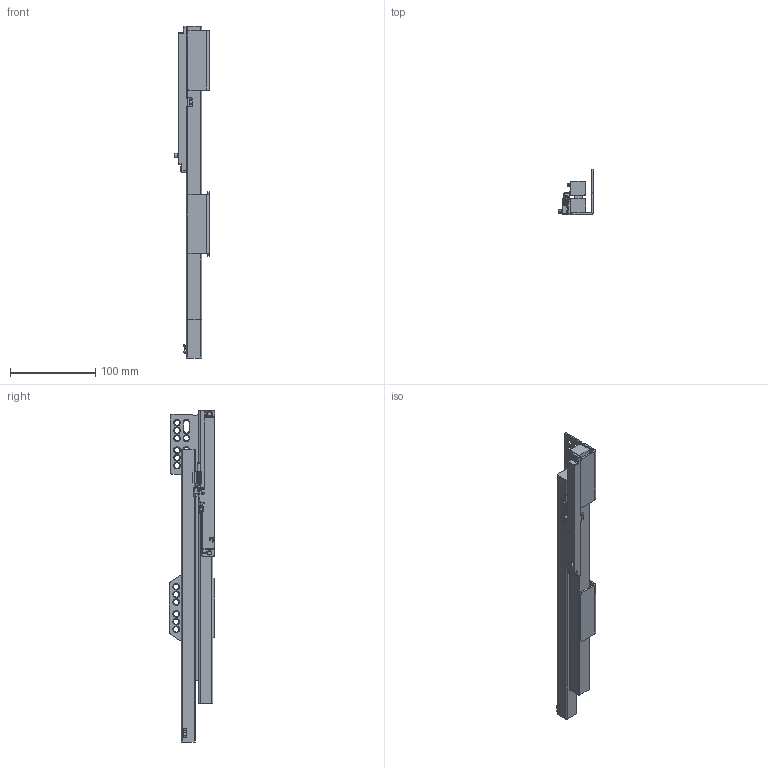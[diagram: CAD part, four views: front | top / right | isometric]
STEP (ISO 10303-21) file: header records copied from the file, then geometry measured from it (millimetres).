
FILE_DESCRIPTION (( 'STEP AP203' ), '1' );
FILE_NAME ('HB014004GX-L(闭合).STEP', '2025-05-13T07:19:50', ( '微软用户' ), ( '微软中国' ), 'SwSTEP 2.0', 'SolidWorks 2021', '' );
FILE_SCHEMA (( 'CONFIG_CONTROL_DESIGN' ));
Length unit declared in the file: millimetre
Products named in the file (1): HB014004GX-L(敕磁)
Bounding box: 40.83 x 53 x 388.9 mm (x, y, z)
Volume: 254734.6 mm3; surface area: 71641.5 mm2
Topology: 3 solids, 3 shells, 1188 faces, 3192 edges, 1995 vertices
Faces by surface type: cylinder 485, plane 366, torus 158, bspline 127, cone 44, sphere 8
Entity records: 68112 total; most frequent: CARTESIAN_POINT 39458, ORIENTED_EDGE 6320, DIRECTION 5779, EDGE_CURVE 3160, AXIS2_PLACEMENT_3D 2181, VERTEX_POINT 1995, VECTOR 1417, LINE 1417
